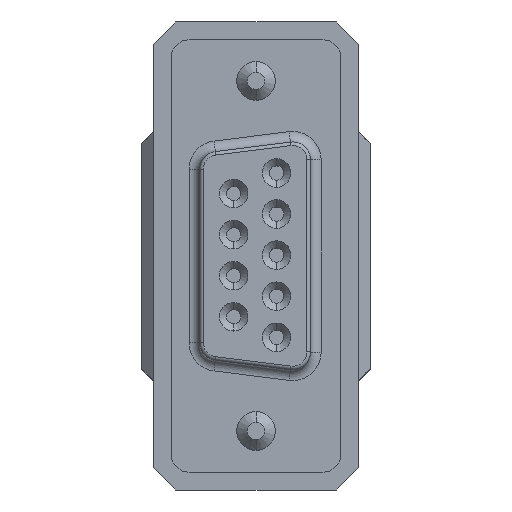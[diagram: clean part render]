
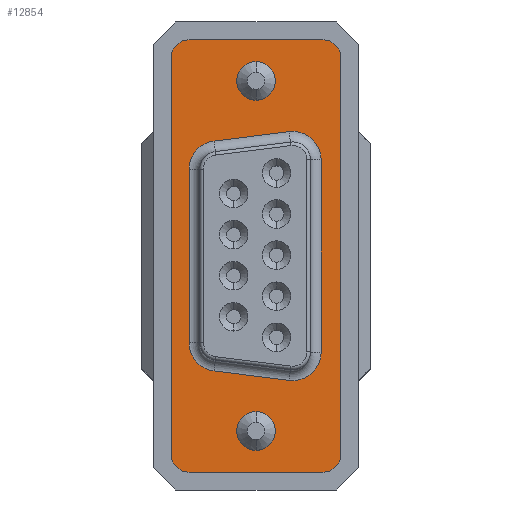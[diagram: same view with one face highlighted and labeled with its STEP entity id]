
A CAD part, top view. The second image highlights one B-rep face of the part: STEP entity #12854.
In plain terms, the highlighted planar face has unit normal (0, 0, 1).
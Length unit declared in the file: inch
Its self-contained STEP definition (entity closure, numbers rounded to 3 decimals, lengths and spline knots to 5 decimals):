
#4512=CARTESIAN_POINT('',(-0.475,0.1,1.085));
#4513=DIRECTION('',(0.,0.,1.));
#4514=DIRECTION('',(-1.,0.,0.));
#4515=AXIS2_PLACEMENT_3D('',#4512,#4513,#4514);
#4517=DIRECTION('',(0.,-1.,0.));
#4518=VECTOR('',#4517,1.11);
#4519=CARTESIAN_POINT('',(-0.525,1.21,1.085));
#4520=LINE('',#4519,#4518);
#4521=CARTESIAN_POINT('',(-0.475,1.21,1.085));
#4522=DIRECTION('',(0.,0.,1.));
#4523=DIRECTION('',(0.,1.,0.));
#4524=AXIS2_PLACEMENT_3D('',#4521,#4522,#4523);
#4526=DIRECTION('',(-1.,0.,0.));
#4527=VECTOR('',#4526,0.375);
#4528=CARTESIAN_POINT('',(-0.1,1.26,1.085));
#4529=LINE('',#4528,#4527);
#4530=CARTESIAN_POINT('',(-0.1,1.21,1.085));
#4531=DIRECTION('',(0.,0.,1.));
#4532=DIRECTION('',(1.,0.,0.));
#4533=AXIS2_PLACEMENT_3D('',#4530,#4531,#4532);
#4535=DIRECTION('',(0.,1.,0.));
#4536=VECTOR('',#4535,1.11);
#4537=CARTESIAN_POINT('',(-0.05,0.1,1.085));
#4538=LINE('',#4537,#4536);
#4539=CARTESIAN_POINT('',(-0.1,0.1,1.085));
#4540=DIRECTION('',(0.,0.,1.));
#4541=DIRECTION('',(0.,-1.,0.));
#4542=AXIS2_PLACEMENT_3D('',#4539,#4540,#4541);
#4544=DIRECTION('',(1.,0.,0.));
#4545=VECTOR('',#4544,0.375);
#4546=CARTESIAN_POINT('',(-0.475,0.05,1.085));
#4547=LINE('',#4546,#4545);
#4548=CARTESIAN_POINT('',(-0.185,0.92389,1.085));
#4549=DIRECTION('',(0.,0.,1.));
#4550=DIRECTION('',(1.,0.,0.));
#4551=AXIS2_PLACEMENT_3D('',#4548,#4549,#4550);
#4553=DIRECTION('',(-0.992,-0.125,0.));
#4554=VECTOR('',#4553,0.21166);
#4555=CARTESIAN_POINT('',(-0.195,1.00326,1.085));
#4556=LINE('',#4555,#4554);
#4557=CARTESIAN_POINT('',(-0.395,0.89744,1.085));
#4558=DIRECTION('',(0.,0.,1.));
#4559=DIRECTION('',(-0.125,0.992,0.));
#4560=AXIS2_PLACEMENT_3D('',#4557,#4558,#4559);
#4562=DIRECTION('',(0.,-1.,0.));
#4563=VECTOR('',#4562,0.48489);
#4564=CARTESIAN_POINT('',(-0.475,0.89744,1.085));
#4565=LINE('',#4564,#4563);
#4566=CARTESIAN_POINT('',(-0.395,0.41256,1.085));
#4567=DIRECTION('',(0.,0.,1.));
#4568=DIRECTION('',(-1.,0.,0.));
#4569=AXIS2_PLACEMENT_3D('',#4566,#4567,#4568);
#4571=DIRECTION('',(0.992,-0.125,0.));
#4572=VECTOR('',#4571,0.21166);
#4573=CARTESIAN_POINT('',(-0.405,0.33318,1.085));
#4574=LINE('',#4573,#4572);
#4575=CARTESIAN_POINT('',(-0.185,0.38611,1.085));
#4576=DIRECTION('',(0.,0.,1.));
#4577=DIRECTION('',(-0.125,-0.992,0.));
#4578=AXIS2_PLACEMENT_3D('',#4575,#4576,#4577);
#4580=DIRECTION('',(0.,1.,0.));
#4581=VECTOR('',#4580,0.53778);
#4582=CARTESIAN_POINT('',(-0.105,0.38611,1.085));
#4583=LINE('',#4582,#4581);
#4584=CARTESIAN_POINT('',(-0.2875,1.145,1.085));
#4585=DIRECTION('',(0.,0.,1.));
#4586=DIRECTION('',(0.,1.,0.));
#4587=AXIS2_PLACEMENT_3D('',#4584,#4585,#4586);
#4589=CARTESIAN_POINT('',(-0.2875,1.145,1.085));
#4590=DIRECTION('',(0.,0.,1.));
#4591=DIRECTION('',(0.,-1.,0.));
#4592=AXIS2_PLACEMENT_3D('',#4589,#4590,#4591);
#4594=CARTESIAN_POINT('',(-0.2875,0.165,1.085));
#4595=DIRECTION('',(0.,0.,1.));
#4596=DIRECTION('',(0.,1.,0.));
#4597=AXIS2_PLACEMENT_3D('',#4594,#4595,#4596);
#4599=CARTESIAN_POINT('',(-0.2875,0.165,1.085));
#4600=DIRECTION('',(0.,0.,1.));
#4601=DIRECTION('',(0.,-1.,0.));
#4602=AXIS2_PLACEMENT_3D('',#4599,#4600,#4601);
#5570=CARTESIAN_POINT('',(-0.525,0.1,1.085));
#5571=CARTESIAN_POINT('',(-0.475,0.05,1.085));
#5572=VERTEX_POINT('',#5570);
#5573=VERTEX_POINT('',#5571);
#5574=CARTESIAN_POINT('',(-0.1,0.05,1.085));
#5575=VERTEX_POINT('',#5574);
#5576=CARTESIAN_POINT('',(-0.05,0.1,1.085));
#5577=VERTEX_POINT('',#5576);
#5578=CARTESIAN_POINT('',(-0.05,1.21,1.085));
#5579=VERTEX_POINT('',#5578);
#5580=CARTESIAN_POINT('',(-0.1,1.26,1.085));
#5581=VERTEX_POINT('',#5580);
#5582=CARTESIAN_POINT('',(-0.475,1.26,1.085));
#5583=VERTEX_POINT('',#5582);
#5584=CARTESIAN_POINT('',(-0.525,1.21,1.085));
#5585=VERTEX_POINT('',#5584);
#5742=CARTESIAN_POINT('',(-0.105,0.92389,1.085));
#5743=CARTESIAN_POINT('',(-0.195,1.00326,1.085));
#5744=VERTEX_POINT('',#5742);
#5745=VERTEX_POINT('',#5743);
#5750=CARTESIAN_POINT('',(-0.405,0.97682,1.085));
#5751=VERTEX_POINT('',#5750);
#5754=CARTESIAN_POINT('',(-0.475,0.89744,1.085));
#5755=VERTEX_POINT('',#5754);
#5758=CARTESIAN_POINT('',(-0.475,0.41256,1.085));
#5759=VERTEX_POINT('',#5758);
#5762=CARTESIAN_POINT('',(-0.405,0.33318,1.085));
#5763=VERTEX_POINT('',#5762);
#5766=CARTESIAN_POINT('',(-0.195,0.30674,1.085));
#5767=VERTEX_POINT('',#5766);
#5770=CARTESIAN_POINT('',(-0.105,0.38611,1.085));
#5771=VERTEX_POINT('',#5770);
#5882=CARTESIAN_POINT('',(-0.2875,1.199,1.085));
#5883=CARTESIAN_POINT('',(-0.2875,1.091,1.085));
#5884=VERTEX_POINT('',#5882);
#5885=VERTEX_POINT('',#5883);
#5886=CARTESIAN_POINT('',(-0.2875,0.219,1.085));
#5887=CARTESIAN_POINT('',(-0.2875,0.111,1.085));
#5888=VERTEX_POINT('',#5886);
#5889=VERTEX_POINT('',#5887);
#12809=CARTESIAN_POINT('',(0.,0.,1.085));
#12810=DIRECTION('',(0.,0.,1.));
#12811=DIRECTION('',(-1.,0.,0.));
#12812=AXIS2_PLACEMENT_3D('',#12809,#12810,#12811);
#12813=PLANE('',#12812);
#12814=ORIENTED_EDGE('',*,*,#12705,.F.);
#12815=ORIENTED_EDGE('',*,*,#12720,.F.);
#12816=ORIENTED_EDGE('',*,*,#12734,.F.);
#12817=ORIENTED_EDGE('',*,*,#12748,.F.);
#12818=ORIENTED_EDGE('',*,*,#12762,.F.);
#12819=ORIENTED_EDGE('',*,*,#12776,.F.);
#12820=ORIENTED_EDGE('',*,*,#12790,.F.);
#12821=ORIENTED_EDGE('',*,*,#12803,.F.);
#12822=EDGE_LOOP('',(#12814,#12815,#12816,#12817,#12818,#12819,#12820,#12821));
#12823=FACE_OUTER_BOUND('',#12822,.F.);
#12825=ORIENTED_EDGE('',*,*,#12824,.T.);
#12827=ORIENTED_EDGE('',*,*,#12826,.T.);
#12829=ORIENTED_EDGE('',*,*,#12828,.T.);
#12831=ORIENTED_EDGE('',*,*,#12830,.T.);
#12833=ORIENTED_EDGE('',*,*,#12832,.T.);
#12835=ORIENTED_EDGE('',*,*,#12834,.T.);
#12837=ORIENTED_EDGE('',*,*,#12836,.T.);
#12839=ORIENTED_EDGE('',*,*,#12838,.T.);
#12840=EDGE_LOOP('',(#12825,#12827,#12829,#12831,#12833,#12835,#12837,#12839));
#12841=FACE_BOUND('',#12840,.F.);
#12843=ORIENTED_EDGE('',*,*,#12842,.T.);
#12845=ORIENTED_EDGE('',*,*,#12844,.T.);
#12846=EDGE_LOOP('',(#12843,#12845));
#12847=FACE_BOUND('',#12846,.F.);
#12849=ORIENTED_EDGE('',*,*,#12848,.T.);
#12851=ORIENTED_EDGE('',*,*,#12850,.T.);
#12852=EDGE_LOOP('',(#12849,#12851));
#12853=FACE_BOUND('',#12852,.F.);
#12854=ADVANCED_FACE('',(#12823,#12841,#12847,#12853),#12813,.T.);
#4516=CIRCLE('',#4515,0.05);
#4525=CIRCLE('',#4524,0.05);
#4534=CIRCLE('',#4533,0.05);
#4543=CIRCLE('',#4542,0.05);
#4552=CIRCLE('',#4551,0.08);
#4561=CIRCLE('',#4560,0.08);
#4570=CIRCLE('',#4569,0.08);
#4579=CIRCLE('',#4578,0.08);
#4588=CIRCLE('',#4587,0.054);
#4593=CIRCLE('',#4592,0.054);
#4598=CIRCLE('',#4597,0.054);
#4603=CIRCLE('',#4602,0.054);
#12705=EDGE_CURVE('',#5572,#5573,#4516,.T.);
#12720=EDGE_CURVE('',#5585,#5572,#4520,.T.);
#12734=EDGE_CURVE('',#5583,#5585,#4525,.T.);
#12748=EDGE_CURVE('',#5581,#5583,#4529,.T.);
#12762=EDGE_CURVE('',#5579,#5581,#4534,.T.);
#12776=EDGE_CURVE('',#5577,#5579,#4538,.T.);
#12790=EDGE_CURVE('',#5575,#5577,#4543,.T.);
#12803=EDGE_CURVE('',#5573,#5575,#4547,.T.);
#12824=EDGE_CURVE('',#5744,#5745,#4552,.T.);
#12826=EDGE_CURVE('',#5745,#5751,#4556,.T.);
#12828=EDGE_CURVE('',#5751,#5755,#4561,.T.);
#12830=EDGE_CURVE('',#5755,#5759,#4565,.T.);
#12832=EDGE_CURVE('',#5759,#5763,#4570,.T.);
#12834=EDGE_CURVE('',#5763,#5767,#4574,.T.);
#12836=EDGE_CURVE('',#5767,#5771,#4579,.T.);
#12838=EDGE_CURVE('',#5771,#5744,#4583,.T.);
#12842=EDGE_CURVE('',#5884,#5885,#4588,.T.);
#12844=EDGE_CURVE('',#5885,#5884,#4593,.T.);
#12848=EDGE_CURVE('',#5888,#5889,#4598,.T.);
#12850=EDGE_CURVE('',#5889,#5888,#4603,.T.);
